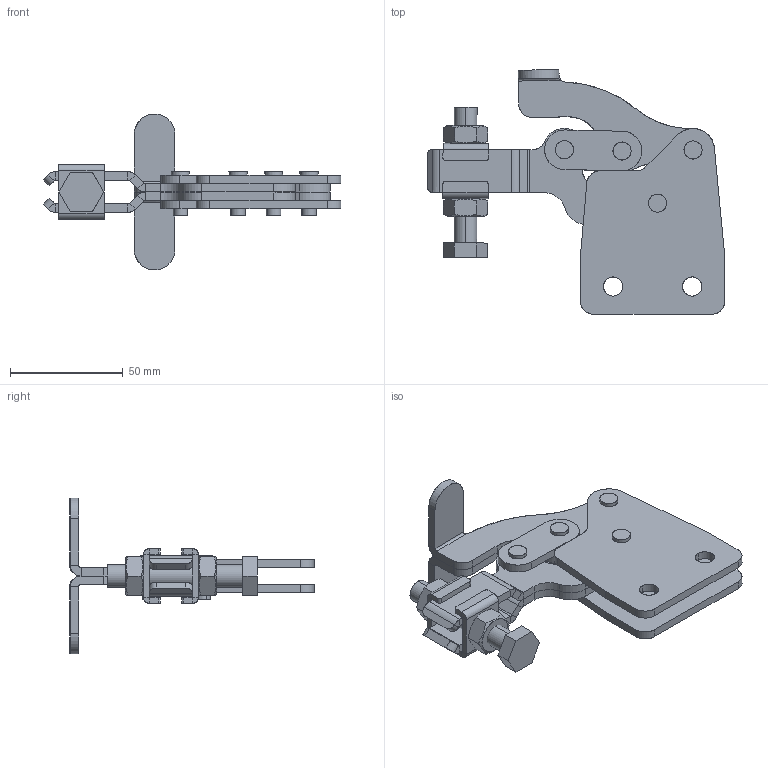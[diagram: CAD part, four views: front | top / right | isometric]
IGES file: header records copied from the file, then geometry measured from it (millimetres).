
Start section: SolidWorks IGES file using analytic representation for surfaces
Global section: file name: C:\Projetos\Grampos\KF-104\KF-104 R\KF-104 R.IGS; native system: SolidWorks 2013; preprocessor: SolidWorks 2013; author: Ricardo; date: 140307.103049; units: millimetre
Bounding box: 131.78 x 108.22 x 68.99 mm (x, y, z)
Surface area: 55353.9 mm2 (no closed solid volume)
Topology: 0 solids, 0 shells, 340 faces, 5334 edges, 5334 vertices
Faces by surface type: revolution 170, bspline 170
